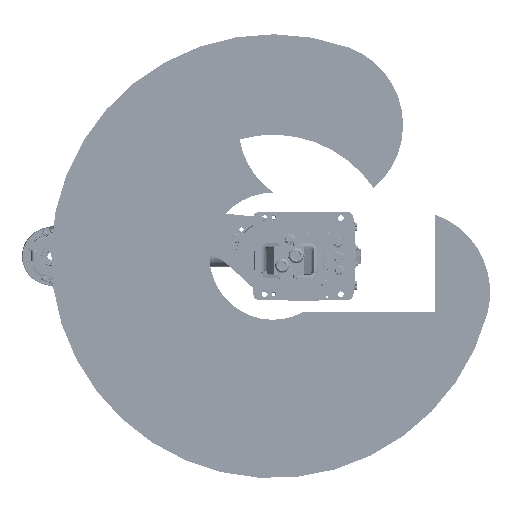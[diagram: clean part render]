
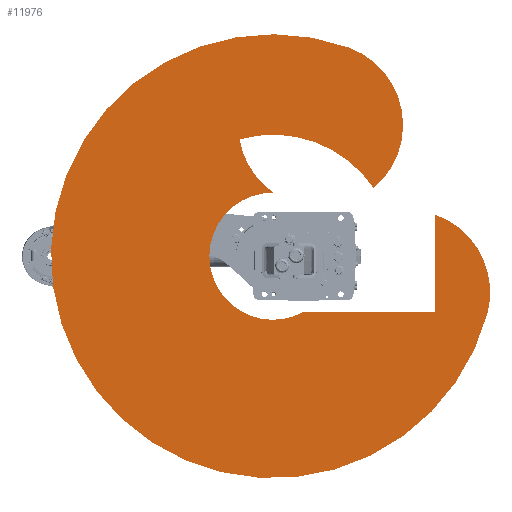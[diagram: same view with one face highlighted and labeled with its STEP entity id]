
A CAD part, front view. The second image highlights one B-rep face of the part: STEP entity #11976.
In plain terms, the highlighted planar face has unit normal (0, -1, 0).
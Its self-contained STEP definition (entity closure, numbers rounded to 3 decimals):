
#11976 = ADVANCED_FACE( '', ( #25617 ), #25618, .F. );
#25617 = FACE_OUTER_BOUND( '', #41221, .T. );
#25618 = PLANE( '', #41222 );
#41221 = EDGE_LOOP( '', ( #74613, #74614, #74615, #74616, #74617, #74618, #74619, #74620 ) );
#41222 = AXIS2_PLACEMENT_3D( '', #74621, #74622, #74623 );
#74613 = ORIENTED_EDGE( '', *, *, #79911, .T. );
#74614 = ORIENTED_EDGE( '', *, *, #86002, .F. );
#74615 = ORIENTED_EDGE( '', *, *, #81548, .F. );
#74616 = ORIENTED_EDGE( '', *, *, #90932, .F. );
#74617 = ORIENTED_EDGE( '', *, *, #86565, .F. );
#74618 = ORIENTED_EDGE( '', *, *, #80729, .T. );
#74619 = ORIENTED_EDGE( '', *, *, #83367, .T. );
#74620 = ORIENTED_EDGE( '', *, *, #84412, .T. );
#74621 = CARTESIAN_POINT( '', ( 28.47, 0., 106.252 ) );
#74622 = DIRECTION( '', ( 0., 1., 0. ) );
#74623 = DIRECTION( '', ( 0., 0., 1. ) );
#79911 = EDGE_CURVE( '', #94490, #94491, #94492, .T. );
#80729 = EDGE_CURVE( '', #95903, #95904, #95905, .T. );
#81548 = EDGE_CURVE( '', #97284, #97285, #97286, .T. );
#83367 = EDGE_CURVE( '', #95904, #100328, #100329, .T. );
#84412 = EDGE_CURVE( '', #100328, #94490, #102022, .T. );
#86002 = EDGE_CURVE( '', #97285, #94491, #104440, .T. );
#86565 = EDGE_CURVE( '', #95903, #105255, #105257, .T. );
#90932 = EDGE_CURVE( '', #105255, #97284, #111010, .T. );
#94490 = VERTEX_POINT( '', #116271 );
#94491 = VERTEX_POINT( '', #116272 );
#94492 = CIRCLE( '', #116273, 191.57 );
#95903 = VERTEX_POINT( '', #118499 );
#95904 = VERTEX_POINT( '', #118500 );
#95905 = LINE( '', #118501, #118502 );
#97284 = VERTEX_POINT( '', #120608 );
#97285 = VERTEX_POINT( '', #120609 );
#97286 = CIRCLE( '', #120610, 350. );
#100328 = VERTEX_POINT( '', #125637 );
#100329 = CIRCLE( '', #125638, 100.24 );
#102022 = CIRCLE( '', #128495, 130. );
#104440 = CIRCLE( '', #132664, 130. );
#105255 = VERTEX_POINT( '', #134140 );
#105257 = LINE( '', #134143, #134144 );
#111010 = CIRCLE( '', #143990, 130. );
#116271 = CARTESIAN_POINT( '', ( -184.156, 0., -52.78 ) );
#116272 = CARTESIAN_POINT( '', ( -107.145, 0., 158.805 ) );
#116273 = AXIS2_PLACEMENT_3D( '', #147269, #147270, #147271 );
#118499 = CARTESIAN_POINT( '', ( 88., 0., 255. ) );
#118500 = CARTESIAN_POINT( '', ( 88., 0., 48.001 ) );
#118501 = CARTESIAN_POINT( '', ( 88., 0., 255. ) );
#118502 = VECTOR( '', #148196, 1000. );
#120608 = CARTESIAN_POINT( '', ( 90.587, 0., 338.074 ) );
#120609 = CARTESIAN_POINT( '', ( -328.892, 0., 119.707 ) );
#120610 = AXIS2_PLACEMENT_3D( '', #149213, #149214, #149215 );
#125637 = CARTESIAN_POINT( '', ( -100.238, 0., 0.687 ) );
#125638 = AXIS2_PLACEMENT_3D( '', #151279, #151280, #151281 );
#128495 = AXIS2_PLACEMENT_3D( '', #152496, #152497, #152498 );
#132664 = AXIS2_PLACEMENT_3D( '', #154085, #154086, #154087 );
#134140 = CARTESIAN_POINT( '', ( -65.918, 0., 255. ) );
#134143 = CARTESIAN_POINT( '', ( 28.47, 0., 255. ) );
#134144 = VECTOR( '', #154668, 1000. );
#143990 = AXIS2_PLACEMENT_3D( '', #158793, #158794, #158795 );
#147269 = CARTESIAN_POINT( '', ( 0., 0., 0. ) );
#147270 = DIRECTION( '', ( 0., 1., 0. ) );
#147271 = DIRECTION( '', ( 1., 0., 0. ) );
#148196 = DIRECTION( '', ( 0., 0., -1. ) );
#149213 = CARTESIAN_POINT( '', ( 0., 0., 0. ) );
#149214 = DIRECTION( '', ( 0., 1., 0. ) );
#149215 = DIRECTION( '', ( 1., 0., 0. ) );
#151279 = CARTESIAN_POINT( '', ( 0., 0., 0. ) );
#151280 = DIRECTION( '', ( 0., 1., 0. ) );
#151281 = DIRECTION( '', ( 1., 0., 0. ) );
#152496 = CARTESIAN_POINT( '', ( -206.732, 0., 75.244 ) );
#152497 = DIRECTION( '', ( 0., 1., 0. ) );
#152498 = DIRECTION( '', ( 1., 0., 0. ) );
#154085 = CARTESIAN_POINT( '', ( -206.732, 0., 75.244 ) );
#154086 = DIRECTION( '', ( 0., 1., 0. ) );
#154087 = DIRECTION( '', ( 1., 0., 0. ) );
#154668 = DIRECTION( '', ( -1., 0., 0. ) );
#158793 = CARTESIAN_POINT( '', ( 56.94, 0., 212.504 ) );
#158794 = DIRECTION( '', ( 0., 1., 0. ) );
#158795 = DIRECTION( '', ( 1., 0., 0. ) );
